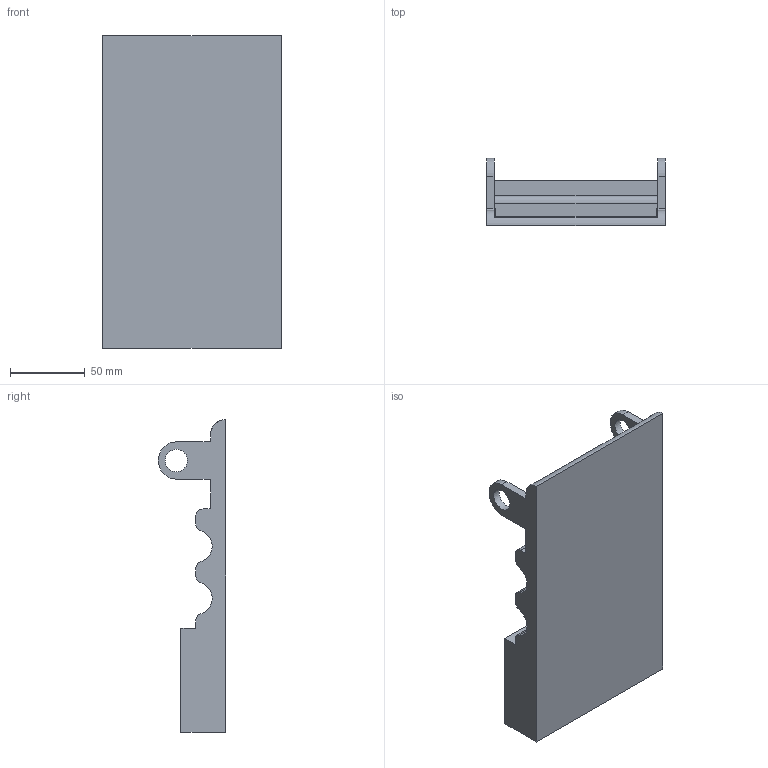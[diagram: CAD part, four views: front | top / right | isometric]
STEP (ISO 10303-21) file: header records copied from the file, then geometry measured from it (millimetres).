
FILE_DESCRIPTION(/* description */ ('STEP AP242 Edition 2','CAx-IF Rec.Pracs.---Representation and Presentation of Product Manufacturing Information (PMI)---4.0---2014-10-13','CAx-IF Rec.Pracs.---3D Tessellated Geometry---0.4---2014-09-14','2;1','CAx-IF Rec.Pracs.---User Defined Attributes---1.5---2016-08-15'),/* implementation_level */ '2;1');
FILE_NAME(/* name */ '6934b2eedd57ab0fa8c877c2',/* time_stamp */ '2025-12-06T22:49:19Z',/* author */ (''),/* organization */ (''),/* preprocessor_version */ 'ST-DEVELOPER v20',/* originating_system */ 'ONSHAPE BY PTC INC, 1.207',/* authorisation */ ' ');
FILE_SCHEMA (('AP242_MANAGED_MODEL_BASED_3D_ENGINEERING_MIM_LF { 1 0 10303 442 3 1 4 }'));
Length unit declared in the file: metre
Products named in the file (1): v1
Bounding box: 120 x 45 x 210 mm (x, y, z)
Volume: 306519.6 mm3; surface area: 83552.2 mm2
Topology: 1 solids, 1 shells, 96 faces, 249 edges, 148 vertices
Faces by surface type: plane 42, cylinder 42, sphere 10, cone 1, torus 1
Full cylindrical faces by diameter (mm): 15 x2, 40 x1
Entity records: 2852 total; most frequent: DIRECTION 518, CARTESIAN_POINT 487, ORIENTED_EDGE 468, EDGE_CURVE 234, AXIS2_PLACEMENT_3D 189, VERTEX_POINT 148, LINE 140, VECTOR 140
